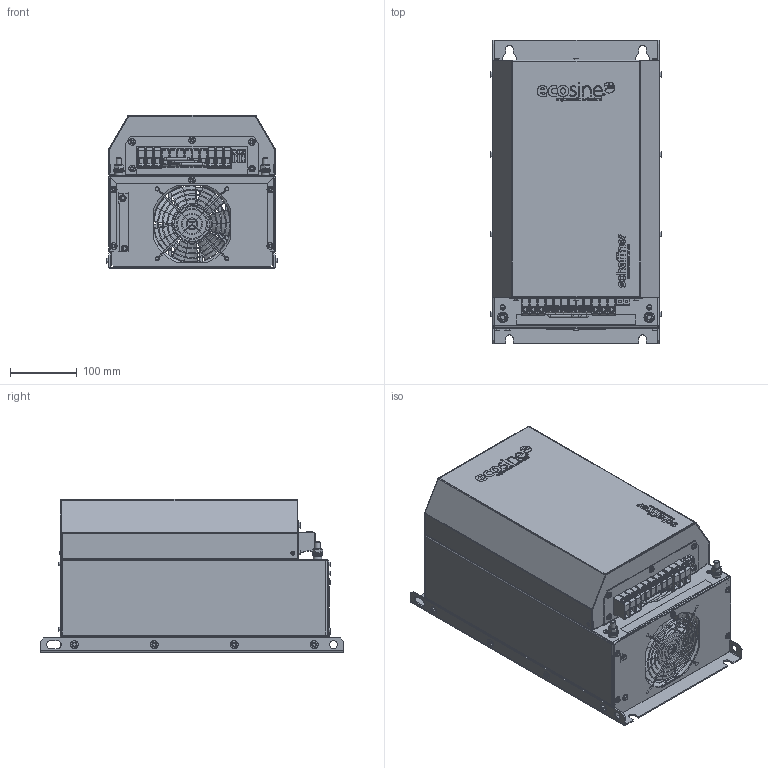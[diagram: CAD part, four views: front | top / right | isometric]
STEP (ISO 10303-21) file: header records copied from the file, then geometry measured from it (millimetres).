
FILE_DESCRIPTION(/* description */ (''),/* implementation_level */ '2;1');
FILE_NAME(/* name */ 'C:\Users\Erika.Jenzer\OneDrive - Schaffner EMV AG\Desktop\Plutus Customer STEP\CUSTOMER IP20 FS B.stp',/* time_stamp */ '2023-05-12T08:37:30+02:00',/* author */ ('erika.jenzer'),/* organization */ (''),/* preprocessor_version */ 'ST-DEVELOPER v18.1',/* originating_system */ 'Autodesk Inventor 2020',/* authorisation */ '');
FILE_SCHEMA (('AUTOMOTIVE_DESIGN { 1 0 10303 214 3 1 1 }'));
Products named in the file (1): CUSTOMER IP20 FS B
Bounding box: 257.14 x 455 x 230.1 mm (x, y, z)
Volume: 1066234.6 mm3; surface area: 1172826.7 mm2
Topology: 11 solids, 11 shells, 4715 faces, 12117 edges, 7633 vertices
Faces by surface type: plane 2776, cylinder 945, bspline 439, cone 279, torus 168, sphere 108
Full cylindrical faces by diameter (mm): 0.8 x6, 1 x5, 1.3 x6, 1.6 x4, 2.5 x6, 2.6 x4, 2.8 x2, 3 x5, 3.2 x4, 3.3 x14, 3.7 x4, 4 x47, 4.3 x8, 4.5 x6, 4.7 x2, 5 x17, 5.1 x6, 5.5 x19, 6 x20, 6.5 x4, 7 x4, 7.323 x2, 7.9 x3, 8 x6, 8.4 x2, 8.5 x8, 8.7 x4, 9.2 x1, 9.9 x2, 10 x21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
Entity records: 180900 total; most frequent: CARTESIAN_POINT 63876, ORIENTED_EDGE 24074, DIRECTION 22379, EDGE_CURVE 12037, LINE 7703, VECTOR 7703, VERTEX_POINT 7649, AXIS2_PLACEMENT_3D 7338
